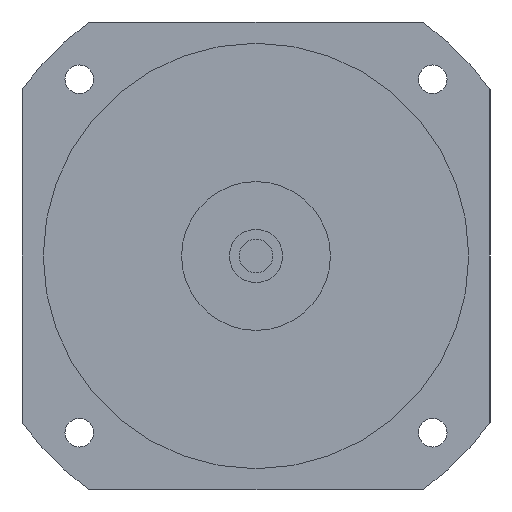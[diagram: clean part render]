
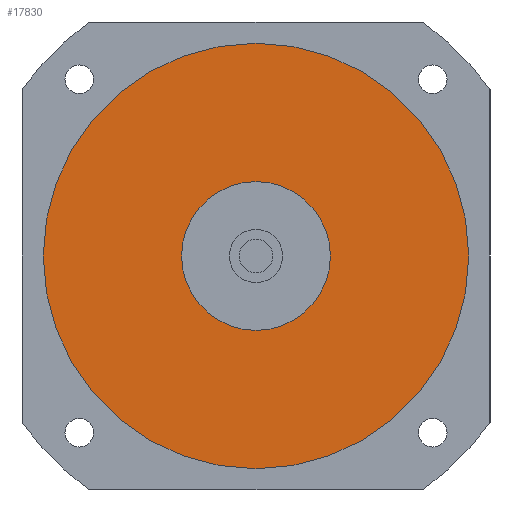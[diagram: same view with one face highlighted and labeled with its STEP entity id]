
A CAD part, left-side view. The second image highlights one B-rep face of the part: STEP entity #17830.
In plain terms, the highlighted planar face has unit normal (-1, 0, 0) as drawn and (0, 0, -1) by its records, which use the part's own axes.
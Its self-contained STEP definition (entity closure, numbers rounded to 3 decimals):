
#17250=CARTESIAN_POINT('',(100.,0.,-54.7));
#17260=VERTEX_POINT('',#17250);
#17350=CARTESIAN_POINT('',(-100.,0.,-54.7));
#17360=VERTEX_POINT('',#17350);
#17390=CARTESIAN_POINT('',(0.,0.,
-54.7));
#17400=DIRECTION('',(0.,0.,1.));
#17410=DIRECTION('',(0.,1.,0.));
#17420=AXIS2_PLACEMENT_3D('',#17390,#17400,#17410);
#17430=CIRCLE('',#17420,100.);
#17440=CARTESIAN_POINT('',(0.,100.,-54.7));
#17450=VERTEX_POINT('',#17440);
#17460=EDGE_CURVE('',#17450,#17360,#17430,.T.);
#17480=EDGE_CURVE('',#17260,#17450,#17430,.T.);
#17530=CARTESIAN_POINT('',(0.,0.,
-54.7));
#17540=DIRECTION('',(0.,0.,1.));
#17550=DIRECTION('',(-1.,0.,0.));
#17560=AXIS2_PLACEMENT_3D('',#17530,#17540,#17550);
#17570=PLANE('',#17560);
#17580=CARTESIAN_POINT('',(0.,0.,
-54.7));
#17590=DIRECTION('',(0.,0.,1.));
#17600=DIRECTION('',(0.,1.,0.));
#17610=AXIS2_PLACEMENT_3D('',#17580,#17590,#17600);
#17620=CIRCLE('',#17610,35.);
#17630=CARTESIAN_POINT('',(-35.,0.,-54.7));
#17640=VERTEX_POINT('',#17630);
#17650=CARTESIAN_POINT('',(35.,0.,-54.7));
#17660=VERTEX_POINT('',#17650);
#17670=EDGE_CURVE('',#17640,#17660,#17620,.T.);
#17680=ORIENTED_EDGE('',*,*,#17670,.T.);
#17690=CARTESIAN_POINT('',(0.,35.,-54.7));
#17700=VERTEX_POINT('',#17690);
#17710=EDGE_CURVE('',#17700,#17640,#17620,.T.);
#17720=ORIENTED_EDGE('',*,*,#17710,.T.);
#17730=EDGE_CURVE('',#17660,#17700,#17620,.T.);
#17740=ORIENTED_EDGE('',*,*,#17730,.T.);
#17750=EDGE_LOOP('',(#17740,#17720,#17680));
#17760=FACE_BOUND('',#17750,.T.);
#17770=ORIENTED_EDGE('',*,*,#17460,.F.);
#17780=EDGE_CURVE('',#17360,#17260,#17430,.T.);
#17790=ORIENTED_EDGE('',*,*,#17780,.F.);
#17800=ORIENTED_EDGE('',*,*,#17480,.F.);
#17810=EDGE_LOOP('',(#17800,#17790,#17770));
#17820=FACE_OUTER_BOUND('',#17810,.T.);
#17830=ADVANCED_FACE('',(#17760,#17820),#17570,.F.);
